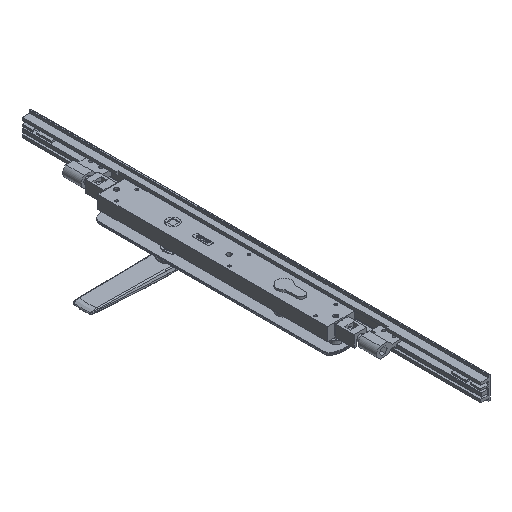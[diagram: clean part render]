
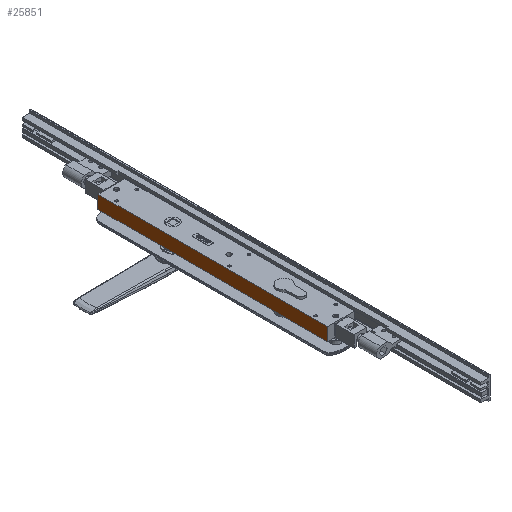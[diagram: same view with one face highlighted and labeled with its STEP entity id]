
A CAD part, isometric view. The second image highlights one B-rep face of the part: STEP entity #25851.
In plain terms, the highlighted planar face has unit normal (-1, 0, 0) as drawn and (1, 0, 0) by its records, which use the part's own axes.
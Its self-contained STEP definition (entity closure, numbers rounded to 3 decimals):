
#1086 = LINE ( 'NONE', #13942, #4806 ) ;
#1245 = DIRECTION ( 'NONE',  ( 0., -1., 0. ) ) ;
#2297 = EDGE_CURVE ( 'NONE', #23303, #7110, #1086, .T. ) ;
#4170 = CARTESIAN_POINT ( 'NONE',  ( 16., -199.25, 7.75 ) ) ;
#4806 = VECTOR ( 'NONE', #11437, 1000. ) ;
#5315 = VERTEX_POINT ( 'NONE', #28243 ) ;
#6603 = DIRECTION ( 'NONE',  ( 0., 0., -1. ) ) ;
#7110 = VERTEX_POINT ( 'NONE', #19149 ) ;
#7205 = ORIENTED_EDGE ( 'NONE', *, *, #15473, .T. ) ;
#8834 = EDGE_CURVE ( 'NONE', #5315, #32037, #9263, .T. ) ;
#9021 = PLANE ( 'NONE',  #29908 ) ;
#9263 = LINE ( 'NONE', #27578, #10939 ) ;
#10939 = VECTOR ( 'NONE', #11037, 1000. ) ;
#11037 = DIRECTION ( 'NONE',  ( 0., 1., 0. ) ) ;
#11437 = DIRECTION ( 'NONE',  ( 0., 1., 0. ) ) ;
#13617 = DIRECTION ( 'NONE',  ( -1., 0., 0. ) ) ;
#13942 = CARTESIAN_POINT ( 'NONE',  ( 16., 72.75, 7.75 ) ) ;
#14051 = EDGE_CURVE ( 'NONE', #7110, #32037, #29984, .T. ) ;
#15473 = EDGE_CURVE ( 'NONE', #23303, #5315, #29786, .T. ) ;
#17666 = VECTOR ( 'NONE', #6603, 1000. ) ;
#18876 = CARTESIAN_POINT ( 'NONE',  ( 16., 72.75, 7.75 ) ) ;
#19149 = CARTESIAN_POINT ( 'NONE',  ( 16., 72.75, 7.75 ) ) ;
#21762 = FACE_OUTER_BOUND ( 'NONE', #28859, .T. ) ;
#23303 = VERTEX_POINT ( 'NONE', #26999 ) ;
#24688 = DIRECTION ( 'NONE',  ( 0., 0., -1. ) ) ;
#25843 = ORIENTED_EDGE ( 'NONE', *, *, #14051, .F. ) ;
#25851 = ADVANCED_FACE ( 'NONE', ( #21762 ), #9021, .F. ) ;
#26999 = CARTESIAN_POINT ( 'NONE',  ( 16., -199.25, 7.75 ) ) ;
#27021 = ORIENTED_EDGE ( 'NONE', *, *, #2297, .F. ) ;
#27578 = CARTESIAN_POINT ( 'NONE',  ( 16., 72.75, -7.75 ) ) ;
#28243 = CARTESIAN_POINT ( 'NONE',  ( 16., -199.25, -7.75 ) ) ;
#28859 = EDGE_LOOP ( 'NONE', ( #29831, #25843, #27021, #7205 ) ) ;
#29633 = CARTESIAN_POINT ( 'NONE',  ( 16., 72.75, -7.75 ) ) ;
#29786 = LINE ( 'NONE', #4170, #31167 ) ;
#29824 = CARTESIAN_POINT ( 'NONE',  ( 16., 72.75, 7.75 ) ) ;
#29831 = ORIENTED_EDGE ( 'NONE', *, *, #8834, .T. ) ;
#29908 = AXIS2_PLACEMENT_3D ( 'NONE', #18876, #13617, #1245 ) ;
#29984 = LINE ( 'NONE', #29824, #17666 ) ;
#31167 = VECTOR ( 'NONE', #24688, 1000. ) ;
#32037 = VERTEX_POINT ( 'NONE', #29633 ) ;
